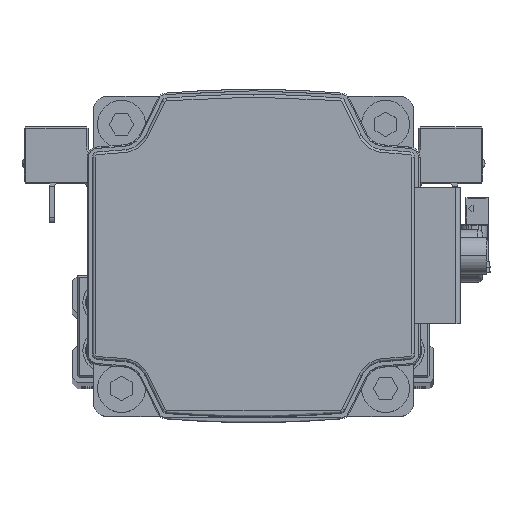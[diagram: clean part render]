
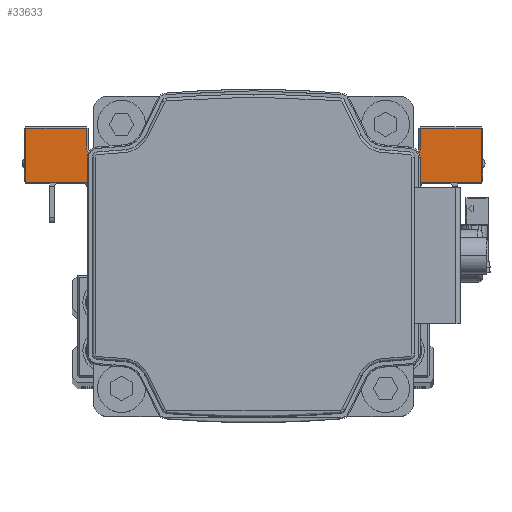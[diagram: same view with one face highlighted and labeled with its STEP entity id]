
A CAD part, top view. The second image highlights one B-rep face of the part: STEP entity #33633.
In plain terms, the highlighted planar face has unit normal (0, 0, 1) as drawn and (1, 0, 0) by its records, which use the part's own axes.
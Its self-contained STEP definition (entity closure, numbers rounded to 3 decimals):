
#159 = DIRECTION ( 'NONE',  ( -1., 0., 0. ) ) ;
#219 = DIRECTION ( 'NONE',  ( 0., 0., -1. ) ) ;
#785 = CARTESIAN_POINT ( 'NONE',  ( 25.5, 12.7, -30. ) ) ;
#1606 = DIRECTION ( 'NONE',  ( 0., 0., 1. ) ) ;
#2000 = DIRECTION ( 'NONE',  ( -1., 0., 0. ) ) ;
#2096 = VECTOR ( 'NONE', #19198, 1000. ) ;
#2409 = CARTESIAN_POINT ( 'NONE',  ( 25.5, 7.5, -15. ) ) ;
#2849 = EDGE_CURVE ( 'NONE', #6509, #19054, #15972, .T. ) ;
#2922 = DIRECTION ( 'NONE',  ( 0., 1., 0. ) ) ;
#3064 = VERTEX_POINT ( 'NONE', #11199 ) ;
#3273 = FACE_OUTER_BOUND ( 'NONE', #25910, .T. ) ;
#3456 = EDGE_CURVE ( 'NONE', #13290, #3999, #17383, .T. ) ;
#3999 = VERTEX_POINT ( 'NONE', #40689 ) ;
#4000 = DIRECTION ( 'NONE',  ( 0., 0., 1. ) ) ;
#4704 = CARTESIAN_POINT ( 'NONE',  ( 25.5, 7.5, -42.7 ) ) ;
#5309 = CARTESIAN_POINT ( 'NONE',  ( 25.5, 5.5, 17. ) ) ;
#5454 = ORIENTED_EDGE ( 'NONE', *, *, #35169, .F. ) ;
#6046 = EDGE_CURVE ( 'NONE', #3064, #38426, #36866, .T. ) ;
#6162 = LINE ( 'NONE', #18827, #34209 ) ;
#6185 = CIRCLE ( 'NONE', #29393, 2. ) ;
#6438 = EDGE_CURVE ( 'NONE', #28954, #10109, #36762, .T. ) ;
#6509 = VERTEX_POINT ( 'NONE', #37575 ) ;
#6520 = CARTESIAN_POINT ( 'NONE',  ( 25.5, 7.5, 42.7 ) ) ;
#8338 = CARTESIAN_POINT ( 'NONE',  ( 25.5, 7.5, -31.3 ) ) ;
#8384 = VECTOR ( 'NONE', #21023, 1000. ) ;
#8441 = CARTESIAN_POINT ( 'NONE',  ( 25.5, 7.5, 15. ) ) ;
#8472 = CARTESIAN_POINT ( 'NONE',  ( 25.5, 17.7, -42.7 ) ) ;
#8510 = DIRECTION ( 'NONE',  ( 0., 0., 1. ) ) ;
#8751 = CIRCLE ( 'NONE', #31956, 1.3 ) ;
#8863 = DIRECTION ( 'NONE',  ( 0., 0., 1. ) ) ;
#10039 = EDGE_CURVE ( 'NONE', #17933, #17593, #6162, .T. ) ;
#10109 = VERTEX_POINT ( 'NONE', #19451 ) ;
#10199 = ORIENTED_EDGE ( 'NONE', *, *, #2849, .T. ) ;
#10202 = ORIENTED_EDGE ( 'NONE', *, *, #25143, .T. ) ;
#10462 = CIRCLE ( 'NONE', #15764, 2. ) ;
#10625 = CARTESIAN_POINT ( 'NONE',  ( 25.5, -7.5, 15. ) ) ;
#10945 = ORIENTED_EDGE ( 'NONE', *, *, #14360, .T. ) ;
#11085 = ORIENTED_EDGE ( 'NONE', *, *, #10039, .T. ) ;
#11199 = CARTESIAN_POINT ( 'NONE',  ( 25.5, 5.5, 15. ) ) ;
#11630 = DIRECTION ( 'NONE',  ( -1., 0., 0. ) ) ;
#11851 = CARTESIAN_POINT ( 'NONE',  ( 25.5, 12.7, 30. ) ) ;
#12092 = VERTEX_POINT ( 'NONE', #38012 ) ;
#12360 = DIRECTION ( 'NONE',  ( 0., 0., -1. ) ) ;
#12481 = DIRECTION ( 'NONE',  ( 0., 0., -1. ) ) ;
#12809 = DIRECTION ( 'NONE',  ( 0., 0., 1. ) ) ;
#13286 = EDGE_CURVE ( 'NONE', #12092, #36059, #10462, .T. ) ;
#13290 = VERTEX_POINT ( 'NONE', #27327 ) ;
#14334 = EDGE_CURVE ( 'NONE', #17593, #28954, #24653, .T. ) ;
#14360 = EDGE_CURVE ( 'NONE', #3999, #6509, #34395, .T. ) ;
#14656 = DIRECTION ( 'NONE',  ( 0., 0., 1. ) ) ;
#15072 = DIRECTION ( 'NONE',  ( 0., -1., 0. ) ) ;
#15308 = ORIENTED_EDGE ( 'NONE', *, *, #13286, .T. ) ;
#15764 = AXIS2_PLACEMENT_3D ( 'NONE', #30449, #2000, #14656 ) ;
#15788 = ORIENTED_EDGE ( 'NONE', *, *, #25848, .T. ) ;
#15920 = PLANE ( 'NONE',  #18430 ) ;
#15972 = LINE ( 'NONE', #28639, #33976 ) ;
#16749 = CARTESIAN_POINT ( 'NONE',  ( 25.5, 7.5, 17. ) ) ;
#17383 = LINE ( 'NONE', #30045, #24109 ) ;
#17516 = VECTOR ( 'NONE', #2922, 1000. ) ;
#17593 = VERTEX_POINT ( 'NONE', #8472 ) ;
#17933 = VERTEX_POINT ( 'NONE', #4704 ) ;
#17963 = DIRECTION ( 'NONE',  ( -1., 0., 0. ) ) ;
#18321 = VECTOR ( 'NONE', #12481, 1000. ) ;
#18430 = AXIS2_PLACEMENT_3D ( 'NONE', #28580, #159, #12809 ) ;
#18710 = LINE ( 'NONE', #31362, #17516 ) ;
#18747 = AXIS2_PLACEMENT_3D ( 'NONE', #24307, #36936, #8510 ) ;
#18827 = CARTESIAN_POINT ( 'NONE',  ( 25.5, 7.5, -42.7 ) ) ;
#19054 = VERTEX_POINT ( 'NONE', #16749 ) ;
#19198 = DIRECTION ( 'NONE',  ( 0., -1., 0. ) ) ;
#19451 = CARTESIAN_POINT ( 'NONE',  ( 25.5, 14., -31.3 ) ) ;
#19794 = LINE ( 'NONE', #32446, #34241 ) ;
#19822 = ORIENTED_EDGE ( 'NONE', *, *, #34044, .T. ) ;
#21023 = DIRECTION ( 'NONE',  ( 0., -1., 0. ) ) ;
#21120 = DIRECTION ( 'NONE',  ( 0., -1., 0. ) ) ;
#21183 = ORIENTED_EDGE ( 'NONE', *, *, #24202, .T. ) ;
#21701 = EDGE_CURVE ( 'NONE', #10109, #40628, #36632, .T. ) ;
#24109 = VECTOR ( 'NONE', #1606, 1000. ) ;
#24202 = EDGE_CURVE ( 'NONE', #38652, #33230, #8751, .T. ) ;
#24273 = VECTOR ( 'NONE', #15072, 1000. ) ;
#24307 = CARTESIAN_POINT ( 'NONE',  ( 25.5, 14., -30. ) ) ;
#24317 = DIRECTION ( 'NONE',  ( 0., 0., 1. ) ) ;
#24653 = LINE ( 'NONE', #37286, #27299 ) ;
#24909 = ORIENTED_EDGE ( 'NONE', *, *, #35864, .T. ) ;
#25143 = EDGE_CURVE ( 'NONE', #19054, #3064, #6185, .T. ) ;
#25358 = ORIENTED_EDGE ( 'NONE', *, *, #3456, .T. ) ;
#25765 = VECTOR ( 'NONE', #12360, 1000. ) ;
#25848 = EDGE_CURVE ( 'NONE', #33230, #13290, #18710, .T. ) ;
#25910 = EDGE_LOOP ( 'NONE', ( #19822, #11085, #27185, #38400, #40150, #24909, #21183, #15788, #25358, #10945, #10199, #10202, #30692, #29969, #5454, #15308 ) ) ;
#27185 = ORIENTED_EDGE ( 'NONE', *, *, #14334, .T. ) ;
#27299 = VECTOR ( 'NONE', #8863, 1000. ) ;
#27327 = CARTESIAN_POINT ( 'NONE',  ( 25.5, 17.7, 31.3 ) ) ;
#28135 = LINE ( 'NONE', #40780, #25765 ) ;
#28254 = LINE ( 'NONE', #40911, #18321 ) ;
#28580 = CARTESIAN_POINT ( 'NONE',  ( 25.5, 7.5, -15. ) ) ;
#28639 = CARTESIAN_POINT ( 'NONE',  ( 25.5, 7.5, 43. ) ) ;
#28954 = VERTEX_POINT ( 'NONE', #29275 ) ;
#29275 = CARTESIAN_POINT ( 'NONE',  ( 25.5, 17.7, -31.3 ) ) ;
#29393 = AXIS2_PLACEMENT_3D ( 'NONE', #5309, #17963, #30624 ) ;
#29969 = ORIENTED_EDGE ( 'NONE', *, *, #37452, .T. ) ;
#30045 = CARTESIAN_POINT ( 'NONE',  ( 25.5, 17.7, -15. ) ) ;
#30390 = CARTESIAN_POINT ( 'NONE',  ( 25.5, 14., 31.3 ) ) ;
#30449 = CARTESIAN_POINT ( 'NONE',  ( 25.5, 5.5, -17. ) ) ;
#30624 = DIRECTION ( 'NONE',  ( 0., 0., 1. ) ) ;
#30692 = ORIENTED_EDGE ( 'NONE', *, *, #6046, .T. ) ;
#30847 = LINE ( 'NONE', #2409, #24273 ) ;
#31362 = CARTESIAN_POINT ( 'NONE',  ( 25.5, 7.5, 31.3 ) ) ;
#31477 = DIRECTION ( 'NONE',  ( 0., 1., 0. ) ) ;
#31956 = AXIS2_PLACEMENT_3D ( 'NONE', #40053, #11630, #24317 ) ;
#32446 = CARTESIAN_POINT ( 'NONE',  ( 25.5, 12.7, 30. ) ) ;
#32896 = VECTOR ( 'NONE', #21120, 1000. ) ;
#33230 = VERTEX_POINT ( 'NONE', #30390 ) ;
#33633 = ADVANCED_FACE ( 'NONE', ( #3273 ), #15920, .F. ) ;
#33976 = VECTOR ( 'NONE', #219, 1000. ) ;
#34044 = EDGE_CURVE ( 'NONE', #36059, #17933, #28135, .T. ) ;
#34209 = VECTOR ( 'NONE', #31477, 1000. ) ;
#34241 = VECTOR ( 'NONE', #4000, 1000. ) ;
#34395 = LINE ( 'NONE', #6520, #2096 ) ;
#35169 = EDGE_CURVE ( 'NONE', #12092, #39019, #30847, .T. ) ;
#35864 = EDGE_CURVE ( 'NONE', #40628, #38652, #19794, .T. ) ;
#36059 = VERTEX_POINT ( 'NONE', #36567 ) ;
#36567 = CARTESIAN_POINT ( 'NONE',  ( 25.5, 7.5, -17. ) ) ;
#36632 = CIRCLE ( 'NONE', #18747, 1.3 ) ;
#36762 = LINE ( 'NONE', #8338, #8384 ) ;
#36866 = LINE ( 'NONE', #8441, #32896 ) ;
#36936 = DIRECTION ( 'NONE',  ( -1., 0., 0. ) ) ;
#37286 = CARTESIAN_POINT ( 'NONE',  ( 25.5, 17.7, -15. ) ) ;
#37452 = EDGE_CURVE ( 'NONE', #38426, #39019, #28254, .T. ) ;
#37575 = CARTESIAN_POINT ( 'NONE',  ( 25.5, 7.5, 42.7 ) ) ;
#38012 = CARTESIAN_POINT ( 'NONE',  ( 25.5, 5.5, -15. ) ) ;
#38400 = ORIENTED_EDGE ( 'NONE', *, *, #6438, .T. ) ;
#38426 = VERTEX_POINT ( 'NONE', #10625 ) ;
#38652 = VERTEX_POINT ( 'NONE', #11851 ) ;
#39019 = VERTEX_POINT ( 'NONE', #39628 ) ;
#39628 = CARTESIAN_POINT ( 'NONE',  ( 25.5, -7.5, -15. ) ) ;
#40053 = CARTESIAN_POINT ( 'NONE',  ( 25.5, 14., 30. ) ) ;
#40150 = ORIENTED_EDGE ( 'NONE', *, *, #21701, .T. ) ;
#40628 = VERTEX_POINT ( 'NONE', #785 ) ;
#40689 = CARTESIAN_POINT ( 'NONE',  ( 25.5, 17.7, 42.7 ) ) ;
#40780 = CARTESIAN_POINT ( 'NONE',  ( 25.5, 7.5, 43. ) ) ;
#40911 = CARTESIAN_POINT ( 'NONE',  ( 25.5, -7.5, -15. ) ) ;
